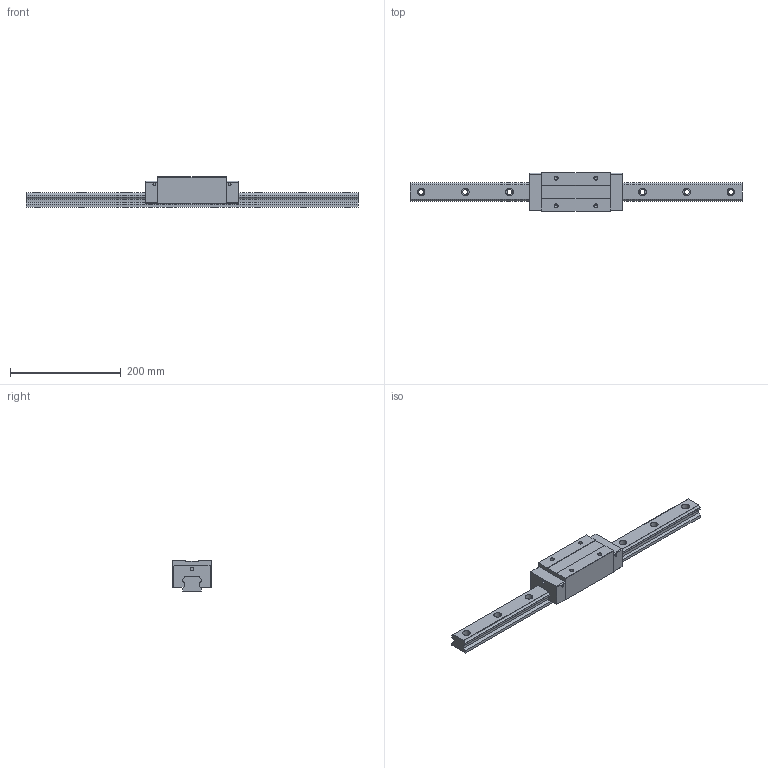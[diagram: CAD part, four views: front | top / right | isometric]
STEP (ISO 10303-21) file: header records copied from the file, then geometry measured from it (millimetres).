
FILE_DESCRIPTION (( 'STEP AP203' ), '1' );
FILE_NAME ('TRH35VE-SZ.STEP', '2024-07-10T02:37:55', ( '' ), ( '' ), 'SwSTEP 2.0', 'SolidWorks 2022', '' );
FILE_SCHEMA (( 'CONFIG_CONTROL_DESIGN' ));
Length unit declared in the file: millimetre
Products named in the file (1): TRH35VE-SZ
Bounding box: 600 x 70 x 55 mm (x, y, z)
Volume: 879287.1 mm3; surface area: 134978.7 mm2
Topology: 2 solids, 2 shells, 186 faces, 488 edges, 316 vertices
Faces by surface type: cylinder 88, plane 82, cone 16
Entity records: 5819 total; most frequent: DIRECTION 1038, CARTESIAN_POINT 983, ORIENTED_EDGE 960, EDGE_CURVE 480, AXIS2_PLACEMENT_3D 371, VERTEX_POINT 316, VECTOR 296, LINE 296
